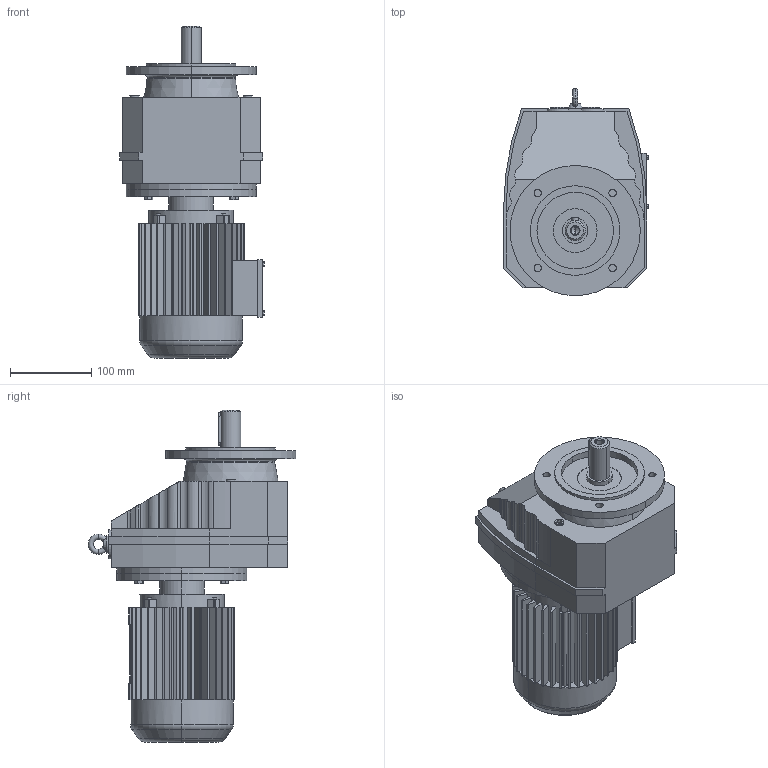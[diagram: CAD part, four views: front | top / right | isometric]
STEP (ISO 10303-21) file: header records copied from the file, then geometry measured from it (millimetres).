
FILE_DESCRIPTION(('Open CASCADE Model'),'2;1');
FILE_NAME('Open CASCADE Shape Model','2021-07-13T16:45:39',('Author'),( 'Open CASCADE'),'Open CASCADE STEP processor 6.3','Open CASCADE 6.3' ,'Unknown');
FILE_SCHEMA(('AUTOMOTIVE_DESIGN_CC2 { 1 2 10303 214 -1 1 5 4 }'));
Length unit declared in the file: millimetre
Products named in the file (3): 1_RXF67-Y63S-160; RXF57‵107_67_160.step; 萇儂_160_Y63S.step
Assembly tree (2 placements, depth 2):
  1_RXF67-Y63S-160
    RXF57‵107_67_160.step
    萇儂_160_Y63S.step
Bounding box: 178 x 255 x 408 mm (x, y, z)
Volume: 6186593.1 mm3; surface area: 425452.8 mm2
Topology: 2 solids, 2 shells, 627 faces, 1650 edges, 1061 vertices
Faces by surface type: plane 414, cylinder 187, torus 14, cone 12
Entity records: 43857 total; most frequent: CARTESIAN_POINT 12825, DIRECTION 5326, ORIENTED_EDGE 3296, PCURVE 3296, DEFINITIONAL_REPRESENTATION 3296, LINE 2741, VECTOR 2741, EDGE_CURVE 1648
